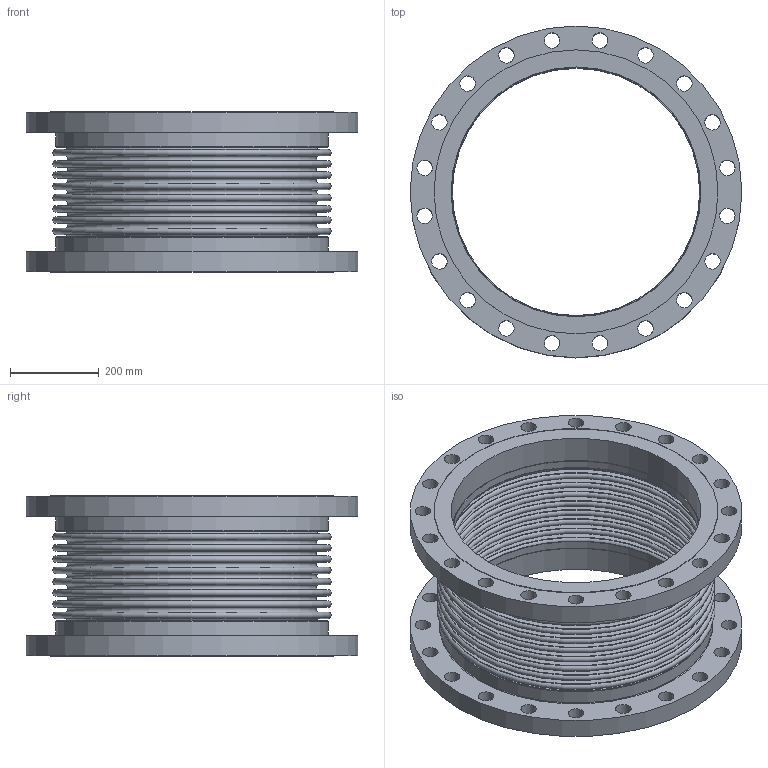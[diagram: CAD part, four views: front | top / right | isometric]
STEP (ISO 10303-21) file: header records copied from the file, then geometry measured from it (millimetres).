
FILE_DESCRIPTION(/* description */ ('EXPANSION JOINT,SINGLE, FLANGED ENDS,22 INCH','CAx-IF Rec.Pracs.---Representation and Presentation of Product Manufacturing Information (PMI)---4.0---2014-10-13'),/* implementation_level */ '2;1');
FILE_NAME(/* name */ 'US-22-8-150S-FLANGED ENDS.stp',/* time_stamp */ '2026-07-31T17:42:57-05:00',/* author */ ('Guadalupe'),/* organization */ (''),/* preprocessor_version */ 'ST-DEVELOPER v20.1',/* originating_system */ 'Autodesk Inventor 2026',/* authorisation */ '');
FILE_SCHEMA (('AP242_MANAGED_MODEL_BASED_3D_ENGINEERING_MIM_LF { 1 0 10303 442 2 1 4 }'));
Length unit declared in the file: inch
Products named in the file (3): 22-150S; 22-150S-02; 22-150S-01
Assembly tree (3 placements, depth 2):
  22-150S
    22-150S-02  x2
    22-150S-01
Bounding box: 749.3 x 749.3 x 362.2 mm (x, y, z)
Volume: 20636063.4 mm3; surface area: 4080166.2 mm2
Topology: 5 solids, 5 shells, 136 faces, 270 edges, 180 vertices
Faces by surface type: cylinder 52, plane 46, torus 38
Full cylindrical faces by diameter (mm): 34.925 x40, 558.8 x2, 561.848 x2, 564.388 x2, 615.95 x2, 641.35 x2, 749.3 x2
Entity records: 3026 total; most frequent: DIRECTION 606, CARTESIAN_POINT 449, ORIENTED_EDGE 384, AXIS2_PLACEMENT_3D 289, EDGE_CURVE 192, EDGE_LOOP 188, CIRCLE 164, VERTEX_POINT 128
